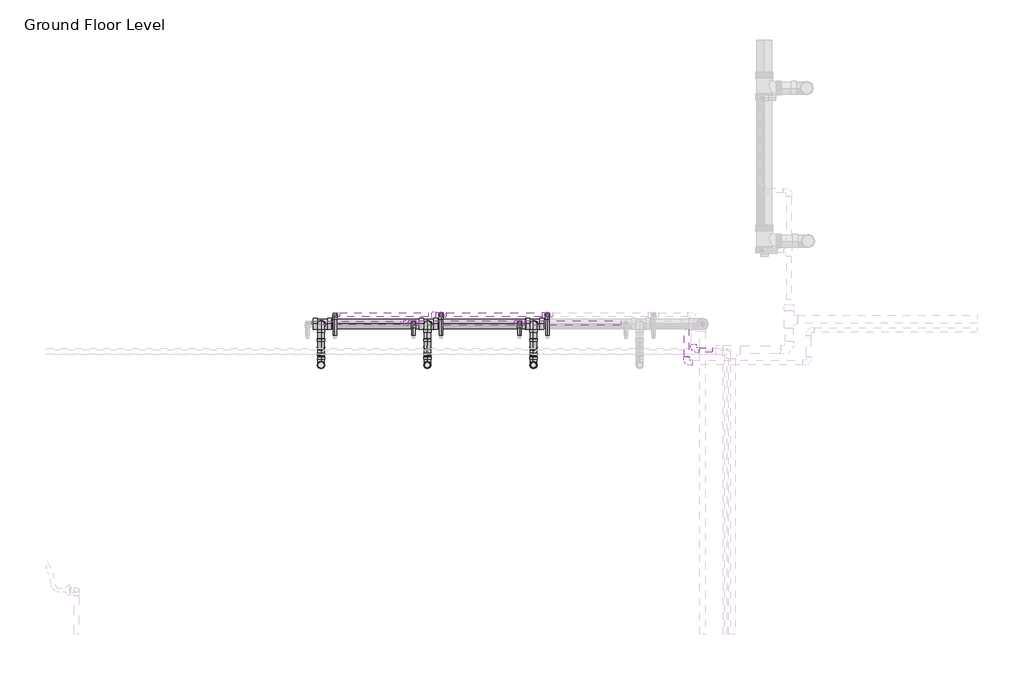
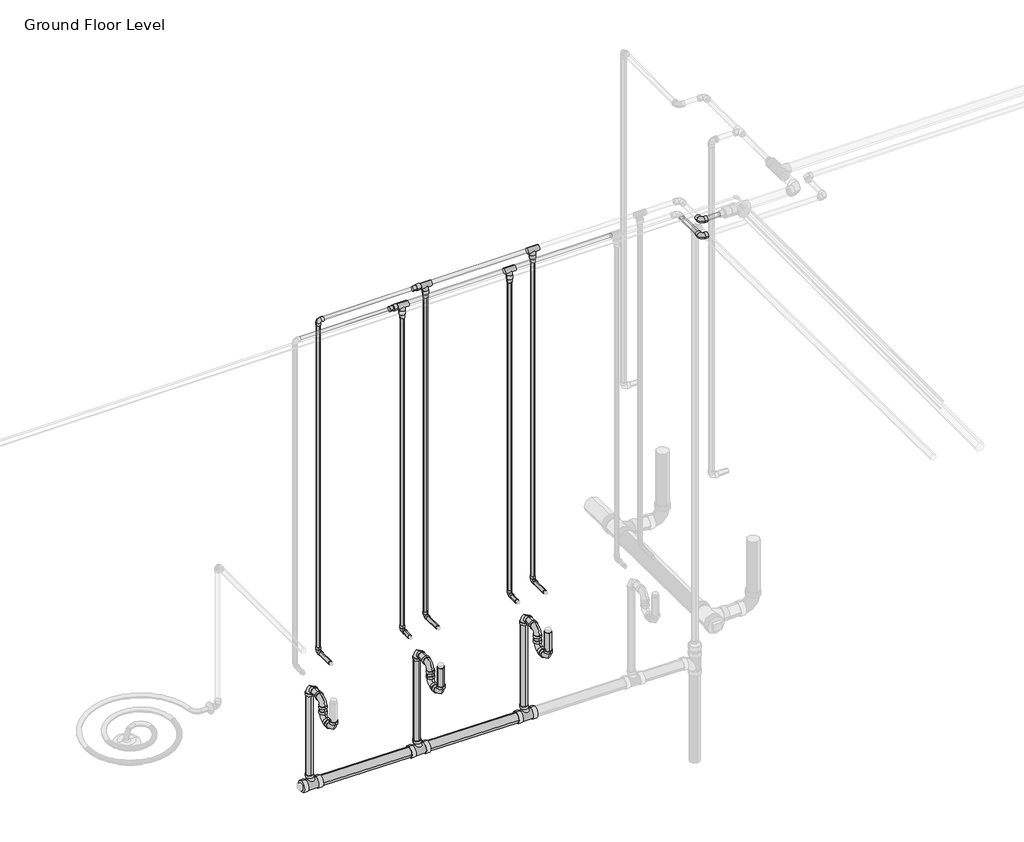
# One storey, part 7 of 74: 33 pipe fittings, 33 pipe segments.
"""IFC4 building model written with IfcOpenShell, lengths in millimetres."""

from ifc_helpers import new_model, si_unit, point, frame, frame_2d, origin, place, context, project, spatial, circle_curve, trimmed, segment, composite_curve, outline, extrude, transform, mapped, element, save
from components import m_bend_pvc_sch_40_dwv_standard_1e7bdcc1, m_bend_pvc_sch_40_dwv_standard_776e50c4, m_bend_pvc_sch_40_dwv_standard_213ff28c, m_tee_reducing_sanitary_pvc_sch_40_dwv_standard_21d2848c, standard_b266ab3f, standard_517a5a8d, standard_72b35c3b, standard_e954f56a

model = new_model("IFC4")

# Units and contexts
model_context = context("Model", 3, world=origin())
ifc_project = project(units=[si_unit("LENGTHUNIT", "METRE", prefix="MILLI")], contexts=[model_context])

# Site, building, storey
site = spatial("IfcSite", under=ifc_project)
building = spatial("IfcBuilding", under=site)
storey = spatial("IfcBuildingStorey", under=building, Name="Ground Floor Level", Elevation=900.0)

# Pipe fittings
placement = place(None, origin())
m_bend_pvc_sch_40_dwv_standard_shape = m_bend_pvc_sch_40_dwv_standard_1e7bdcc1(model_context)
element("IfcPipeFitting", 1, ObjectType="M_Bend - PVC - Sch 40 - DWV : Standard", at=placement, inside=storey, context=model_context, shape_type="MappedRepresentation", body=[
    mapped(m_bend_pvc_sch_40_dwv_standard_shape, transform((-3973.215321, -33168.3528578, 1345.0), x_axis=(0.0, 0.0, -1.0), y_axis=(0.0, 1.0, 0.0), z_axis=(1.0, 0.0, 0.0))),
])
element("IfcPipeFitting", 2, ObjectType="M_Bend - PVC - Sch 40 - DWV : Standard", at=placement, inside=storey, context=model_context, shape_type="MappedRepresentation", body=[
    mapped(m_bend_pvc_sch_40_dwv_standard_shape, transform((-3173.215321, -32858.7119065, 1488.3035905), x_axis=(0.0, 0.9999500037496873, -0.009999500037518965), y_axis=(0.0, -0.009999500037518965, -0.9999500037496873), z_axis=(-1.0, 0.0, 0.0))),
])
element("IfcPipeFitting", 3, ObjectType="M_Bend - PVC - Sch 40 - DWV : Standard", at=placement, inside=storey, context=model_context, shape_type="MappedRepresentation", body=[
    mapped(m_bend_pvc_sch_40_dwv_standard_shape, transform((-3173.215321, -33168.3528578, 1345.0), x_axis=(0.0, -0.9999500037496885, 0.009999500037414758), y_axis=(0.0, 0.009999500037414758, 0.9999500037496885), z_axis=(-1.0, 0.0, 0.0))),
])
element("IfcPipeFitting", 4, ObjectType="M_Bend - PVC - Sch 40 - DWV : Standard", at=placement, inside=storey, context=model_context, shape_type="MappedRepresentation", body=[
    mapped(m_bend_pvc_sch_40_dwv_standard_shape, transform((-2373.215321, -33168.3528578, 1344.95), x_axis=(0.0, -0.9999500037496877, 0.009999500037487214), y_axis=(0.0, 0.009999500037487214, 0.9999500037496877), z_axis=(-1.0, 0.0, 0.0))),
])
m_bend_pvc_sch_40_dwv_standard_2_shape = m_bend_pvc_sch_40_dwv_standard_776e50c4(model_context)
element("IfcPipeFitting", 5, ObjectType="M_Bend - PVC - Sch 40 - DWV : Standard", at=placement, inside=storey, context=model_context, shape_type="MappedRepresentation", body=[
    mapped(m_bend_pvc_sch_40_dwv_standard_2_shape, transform((-3973.215321, -33033.3528578, 1343.6), x_axis=(0.0, 0.9999500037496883, -0.009999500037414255), y_axis=(0.0, 0.009999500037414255, 0.9999500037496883), z_axis=(1.0, 0.0, 0.0))),
])
element("IfcPipeFitting", 6, ObjectType="M_Bend - PVC - Sch 40 - DWV : Standard", at=placement, inside=storey, context=model_context, shape_type="MappedRepresentation", body=[
    mapped(m_bend_pvc_sch_40_dwv_standard_2_shape, transform((-3973.215321, -33033.3528578, 1490.0), x_axis=(0.0, 0.0, 1.0), y_axis=(0.0, 1.0, 0.0), z_axis=(-1.0, 0.0, 0.0))),
])
element("IfcPipeFitting", 7, ObjectType="M_Bend - PVC - Sch 40 - DWV : Standard", at=placement, inside=storey, context=model_context, shape_type="MappedRepresentation", body=[
    mapped(m_bend_pvc_sch_40_dwv_standard_2_shape, transform((-3173.215321, -33033.3528578, 1343.6), x_axis=(0.0, 0.9999500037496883, -0.009999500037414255), y_axis=(0.0, 0.009999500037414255, 0.9999500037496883), z_axis=(1.0, 0.0, 0.0))),
])
element("IfcPipeFitting", 8, ObjectType="M_Bend - PVC - Sch 40 - DWV : Standard", at=placement, inside=storey, context=model_context, shape_type="MappedRepresentation", body=[
    mapped(m_bend_pvc_sch_40_dwv_standard_2_shape, transform((-3173.215321, -33033.3528578, 1490.0), x_axis=(0.0, 0.0, 1.0), y_axis=(0.0, 1.0, 0.0), z_axis=(-1.0, 0.0, 0.0))),
])
element("IfcPipeFitting", 9, ObjectType="M_Bend - PVC - Sch 40 - DWV : Standard", at=placement, inside=storey, context=model_context, shape_type="MappedRepresentation", body=[
    mapped(m_bend_pvc_sch_40_dwv_standard_2_shape, transform((-2373.215321, -33033.3528578, 1343.6), x_axis=(0.0, 0.9999500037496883, -0.009999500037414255), y_axis=(0.0, 0.009999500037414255, 0.9999500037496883), z_axis=(1.0, 0.0, 0.0))),
])
element("IfcPipeFitting", 10, ObjectType="M_Bend - PVC - Sch 40 - DWV : Standard", at=placement, inside=storey, context=model_context, shape_type="MappedRepresentation", body=[
    mapped(m_bend_pvc_sch_40_dwv_standard_2_shape, transform((-2373.215321, -33033.3528578, 1490.0), x_axis=(0.0, 0.0, 1.0), y_axis=(0.0, 1.0, 0.0), z_axis=(-1.0, 0.0, 0.0))),
])
m_bend_pvc_sch_40_dwv_standard_3_shape = m_bend_pvc_sch_40_dwv_standard_213ff28c(model_context)
element("IfcPipeFitting", 11, ObjectType="M_Bend - PVC - Sch 40 - DWV : Standard", at=placement, inside=storey, context=model_context, shape_type="MappedRepresentation", body=[
    mapped(m_bend_pvc_sch_40_dwv_standard_3_shape, transform((-3973.215321, -32858.7119065, 1488.3035905), x_axis=(0.0, 0.9999543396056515, -0.009556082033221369), y_axis=(0.0, -0.009556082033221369, -0.9999543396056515), z_axis=(-1.0, 0.0, 0.0))),
])
element("IfcPipeFitting", 12, ObjectType="M_Bend - PVC - Sch 40 - DWV : Standard", at=placement, inside=storey, context=model_context, shape_type="MappedRepresentation", body=[
    mapped(m_bend_pvc_sch_40_dwv_standard_3_shape, transform((-2373.215321, -32858.7119065, 1488.3035905), x_axis=(0.0, 0.9999543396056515, -0.009556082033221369), y_axis=(0.0, -0.009556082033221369, -0.9999543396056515), z_axis=(-1.0, 0.0, 0.0))),
])
m_tee_reducing_sanitary_pvc_sch_40_dwv_standard_shape = m_tee_reducing_sanitary_pvc_sch_40_dwv_standard_21d2848c(model_context)
element("IfcPipeFitting", 13, ObjectType="M_Tee Reducing Sanitary - PVC - Sch 40 - DWV : Standard", at=placement, inside=storey, context=model_context, shape_type="MappedRepresentation", body=[
    mapped(m_tee_reducing_sanitary_pvc_sch_40_dwv_standard_shape, transform((-3973.215321, -32858.7119065, 718.4349821), x_axis=(-0.9999500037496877, 0.0, 0.009999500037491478), y_axis=(-0.009999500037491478, 0.0, -0.9999500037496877), z_axis=(0.0, -1.0, 0.0))),
])
element("IfcPipeFitting", 14, ObjectType="M_Tee Reducing Sanitary - PVC - Sch 40 - DWV : Standard", at=placement, inside=storey, context=model_context, shape_type="MappedRepresentation", body=[
    mapped(m_tee_reducing_sanitary_pvc_sch_40_dwv_standard_shape, transform((-3173.215321, -32858.7119065, 710.4349821), x_axis=(-0.9999500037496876, 0.0, 0.009999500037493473), y_axis=(-0.009999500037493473, 0.0, -0.9999500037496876), z_axis=(0.0, -1.0, 0.0))),
])
element("IfcPipeFitting", 15, ObjectType="M_Tee Reducing Sanitary - PVC - Sch 40 - DWV : Standard", at=placement, inside=storey, context=model_context, shape_type="MappedRepresentation", body=[
    mapped(m_tee_reducing_sanitary_pvc_sch_40_dwv_standard_shape, transform((-2373.215321, -32858.7119065, 702.4349821), x_axis=(-0.9999500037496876, 0.0, 0.009999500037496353), y_axis=(-0.009999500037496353, 0.0, -0.9999500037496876), z_axis=(0.0, -1.0, 0.0))),
])
standard_shape = standard_b266ab3f(model_context)
element("IfcPipeFitting", 16, ObjectType="M_Elbow - CPVC - Sch 40 : Standard", at=placement, inside=storey, context=model_context, shape_type="MappedRepresentation", body=[
    mapped(standard_shape, transform((-2268.9004005, -32789.6855451, 1690.0), x_axis=(0.0, 0.0, -1.0), y_axis=(0.0, -1.0, 0.0), z_axis=(-1.0, 0.0, 0.0))),
])
element("IfcPipeFitting", 17, ObjectType="M_Elbow - CPVC - Sch 40 : Standard", at=placement, inside=storey, context=model_context, shape_type="MappedRepresentation", body=[
    mapped(standard_shape, transform((-3068.9004005, -32789.6855451, 1690.0), x_axis=(0.0, 0.0, -1.0), y_axis=(0.0, -1.0, 0.0), z_axis=(-1.0, 0.0, 0.0))),
])
element("IfcPipeFitting", 18, ObjectType="M_Elbow - CPVC - Sch 40 : Standard", at=placement, inside=storey, context=model_context, shape_type="MappedRepresentation", body=[
    mapped(standard_shape, transform((-3868.9004005, -32789.6855451, 1690.0), x_axis=(0.0, 0.0, -1.0), y_axis=(0.0, -1.0, 0.0), z_axis=(-1.0, 0.0, 0.0))),
])
element("IfcPipeFitting", 19, ObjectType="M_Elbow - CPVC - Sch 40 : Standard", at=placement, inside=storey, context=model_context, shape_type="MappedRepresentation", body=[
    mapped(standard_shape, transform((-3868.9004005, -32789.6855451, 4300.0), x_axis=(-1.0, 0.0, 0.0), y_axis=(0.0, 0.0, -1.0), z_axis=(0.0, -1.0, 0.0))),
])
element("IfcPipeFitting", 20, ObjectType="M_Elbow - CPVC - Sch 40 : Standard", at=placement, inside=storey, context=model_context, shape_type="MappedRepresentation", body=[
    mapped(standard_shape, transform((-2477.5302417, -32850.870708, 1690.0), x_axis=(0.0, 0.0, -1.0), y_axis=(0.0, -1.0, 0.0), z_axis=(-1.0, 0.0, 0.0))),
])
element("IfcPipeFitting", 21, ObjectType="M_Elbow - CPVC - Sch 40 : Standard", at=placement, inside=storey, context=model_context, shape_type="MappedRepresentation", body=[
    mapped(standard_shape, transform((-3277.5302417, -32850.870708, 1690.0), x_axis=(0.0, 0.0, -1.0), y_axis=(0.0, -1.0, 0.0), z_axis=(-1.0, 0.0, 0.0))),
])
standard_2_shape = standard_517a5a8d(model_context)
element("IfcPipeFitting", 22, ObjectType="M_Elbow - CPVC - Sch 40 : Standard", at=placement, inside=storey, context=model_context, shape_type="MappedRepresentation", body=[
    mapped(standard_2_shape, transform((-1167.2327605, -33054.6855451, 4300.0), x_axis=(0.0, -1.0, 0.0), y_axis=(1.0, 0.0, 0.0), z_axis=(0.0, 0.0, 1.0))),
])
element("IfcPipeFitting", 23, ObjectType="M_Elbow - CPVC - Sch 40 : Standard", at=placement, inside=storey, context=model_context, shape_type="MappedRepresentation", body=[
    mapped(standard_2_shape, transform((-1219.9877664, -33150.870708, 4250.0), x_axis=(0.0, -1.0, 0.0), y_axis=(1.0, 0.0, 0.0), z_axis=(0.0, 0.0, 1.0))),
])
standard_3_shape = standard_72b35c3b(model_context)
element("IfcPipeFitting", 24, ObjectType="M_Tee - CPVC - Sch 40 : Standard", at=placement, inside=storey, context=model_context, shape_type="MappedRepresentation", body=[
    mapped(standard_3_shape, transform((-2268.9004005, -32789.6855451, 4300.0), x_axis=(1.0, 0.0, 0.0), y_axis=(0.0, 0.0, 1.0), z_axis=(0.0, -1.0, 0.0))),
])
element("IfcPipeFitting", 25, ObjectType="M_Tee - CPVC - Sch 40 : Standard", at=placement, inside=storey, context=model_context, shape_type="MappedRepresentation", body=[
    mapped(standard_3_shape, transform((-3068.9004005, -32789.6855451, 4300.0), x_axis=(1.0, 0.0, 0.0), y_axis=(0.0, 0.0, 1.0), z_axis=(0.0, -1.0, 0.0))),
])
element("IfcPipeFitting", 26, ObjectType="M_Tee - CPVC - Sch 40 : Standard", at=placement, inside=storey, context=model_context, shape_type="MappedRepresentation", body=[
    mapped(standard_3_shape, transform((-2477.5302417, -32850.870708, 4250.0), x_axis=(1.0, 0.0, 0.0), y_axis=(0.0, 0.0, 1.0), z_axis=(0.0, -1.0, 0.0))),
])
element("IfcPipeFitting", 27, ObjectType="M_Tee - CPVC - Sch 40 : Standard", at=placement, inside=storey, context=model_context, shape_type="MappedRepresentation", body=[
    mapped(standard_3_shape, transform((-3277.5302417, -32850.870708, 4250.0), x_axis=(1.0, 0.0, 0.0), y_axis=(0.0, 0.0, 1.0), z_axis=(0.0, -1.0, 0.0))),
])
standard_4_shape = standard_e954f56a(model_context)
element("IfcPipeFitting", 28, ObjectType="M_Coupling Reducing - CPVC - Sch 40 : Standard", at=placement, inside=storey, context=model_context, shape_type="MappedRepresentation", body=[
    mapped(standard_4_shape, transform((-2268.9004005, -32789.6855451, 4260.2998), x_axis=(0.0, 0.0, -1.0), y_axis=(1.0, 0.0, 0.0), z_axis=(0.0, -1.0, 0.0))),
])
element("IfcPipeFitting", 29, ObjectType="M_Coupling Reducing - CPVC - Sch 40 : Standard", at=placement, inside=storey, context=model_context, shape_type="MappedRepresentation", body=[
    mapped(standard_4_shape, transform((-3068.9004005, -32789.6855451, 4260.2998), x_axis=(0.0, 0.0, -1.0), y_axis=(1.0, 0.0, 0.0), z_axis=(0.0, -1.0, 0.0))),
])
element("IfcPipeFitting", 30, ObjectType="M_Coupling Reducing - CPVC - Sch 40 : Standard", at=placement, inside=storey, context=model_context, shape_type="MappedRepresentation", body=[
    mapped(standard_4_shape, transform((-3108.6006005, -32789.6855451, 4300.0), x_axis=(-1.0, 0.0, 0.0), y_axis=(0.0, -1.0, 0.0), z_axis=(0.0, 0.0, 1.0))),
])
element("IfcPipeFitting", 31, ObjectType="M_Coupling Reducing - CPVC - Sch 40 : Standard", at=placement, inside=storey, context=model_context, shape_type="MappedRepresentation", body=[
    mapped(standard_4_shape, transform((-2477.5302417, -32850.870708, 4210.2998), x_axis=(0.0, 0.0, -1.0), y_axis=(1.0, 0.0, 0.0), z_axis=(0.0, -1.0, 0.0))),
])
element("IfcPipeFitting", 32, ObjectType="M_Coupling Reducing - CPVC - Sch 40 : Standard", at=placement, inside=storey, context=model_context, shape_type="MappedRepresentation", body=[
    mapped(standard_4_shape, transform((-3277.5302417, -32850.870708, 4210.2998), x_axis=(0.0, 0.0, -1.0), y_axis=(1.0, 0.0, 0.0), z_axis=(0.0, -1.0, 0.0))),
])
element("IfcPipeFitting", 33, ObjectType="M_Coupling Reducing - CPVC - Sch 40 : Standard", at=placement, inside=storey, context=model_context, shape_type="MappedRepresentation", body=[
    mapped(standard_4_shape, transform((-3317.2304417, -32850.870708, 4250.0), x_axis=(-1.0, 0.0, 0.0), y_axis=(0.0, -1.0, 0.0), z_axis=(0.0, 0.0, 1.0))),
])

# Pipe segments
element("IfcPipeSegment", 34, ObjectType="CPVC", at=placement, inside=storey, context=model_context, shape_type="SweptSolid", body=[
    extrude(outline(composite_curve([segment(trimmed(circle_curve(frame_2d((-33054.6855451, 4300.0)), 16.7005), [point((-33037.9850451, 4300.0))], [point((-33054.6855451, 4283.2995))], False, "CARTESIAN"), True, "CONTINUOUS"), segment(trimmed(circle_curve(frame_2d((-33054.6855451, 4300.0)), 16.7005), [point((-33054.6855451, 4283.2995))], [point((-33071.3860451, 4300.0))], False, "CARTESIAN"), True, "CONTINUOUS"), segment(trimmed(circle_curve(frame_2d((-33054.6855451, 4300.0)), 16.7005), [point((-33071.3860451, 4300.0))], [point((-33054.6855451, 4316.7005))], False, "CARTESIAN"), True, "CONTINUOUS"), segment(trimmed(circle_curve(frame_2d((-33054.6855451, 4300.0)), 16.7005), [point((-33054.6855451, 4316.7005))], [point((-33037.9850451, 4300.0))], False, "CARTESIAN"), True, "CONTINUOUS")], self_intersect=False)), frame((-1123.9702105, 0.0, 0.0), z_axis=(1.0, 0.0, 0.0), x_axis=(0.0, 1.0, 0.0)), (0.0, 0.0, 1.0), 95.975736),
])
element("IfcPipeSegment", 35, ObjectType="CPVC", at=placement, inside=storey, context=model_context, shape_type="SweptSolid", body=[
    extrude(outline(composite_curve([segment(trimmed(circle_curve(frame_2d((1690.0, -2268.9004005)), 13.335), [point((1690.0, -2282.2354005))], [point((1676.665, -2268.9004005))], False, "CARTESIAN"), True, "CONTINUOUS"), segment(trimmed(circle_curve(frame_2d((1690.0, -2268.9004005)), 13.335), [point((1676.665, -2268.9004005))], [point((1690.0, -2255.5654005))], False, "CARTESIAN"), True, "CONTINUOUS"), segment(trimmed(circle_curve(frame_2d((1690.0, -2268.9004005)), 13.335), [point((1690.0, -2255.5654005))], [point((1703.335, -2268.9004005))], False, "CARTESIAN"), True, "CONTINUOUS"), segment(trimmed(circle_curve(frame_2d((1690.0, -2268.9004005)), 13.335), [point((1703.335, -2268.9004005))], [point((1690.0, -2282.2354005))], False, "CARTESIAN"), True, "CONTINUOUS")], self_intersect=False)), frame((0.0, -32944.7846466, 0.0), z_axis=(0.0, 1.0, 0.0), x_axis=(0.0, 0.0, 1.0)), (0.0, 0.0, 1.0), 119.7740515),
])
element("IfcPipeSegment", 36, ObjectType="CPVC", at=placement, inside=storey, context=model_context, shape_type="SweptSolid", body=[
    extrude(outline(composite_curve([segment(trimmed(circle_curve(frame_2d((-2268.9004005, -32789.6855451)), 13.335), [point((-2255.5654005, -32789.6855451))], [point((-2268.9004005, -32803.0205451))], False, "CARTESIAN"), True, "CONTINUOUS"), segment(trimmed(circle_curve(frame_2d((-2268.9004005, -32789.6855451)), 13.335), [point((-2268.9004005, -32803.0205451))], [point((-2282.2354005, -32789.6855451))], False, "CARTESIAN"), True, "CONTINUOUS"), segment(trimmed(circle_curve(frame_2d((-2268.9004005, -32789.6855451)), 13.335), [point((-2282.2354005, -32789.6855451))], [point((-2268.9004005, -32776.3505451))], False, "CARTESIAN"), True, "CONTINUOUS"), segment(trimmed(circle_curve(frame_2d((-2268.9004005, -32789.6855451)), 13.335), [point((-2268.9004005, -32776.3505451))], [point((-2255.5654005, -32789.6855451))], False, "CARTESIAN"), True, "CONTINUOUS")], self_intersect=False)), frame((0.0, 0.0, 1725.32505), z_axis=(0.0, 0.0, 1.0), x_axis=(1.0, 0.0, 0.0)), (0.0, 0.0, 1.0), 2477.82475),
])
element("IfcPipeSegment", 37, ObjectType="CPVC", at=placement, inside=storey, context=model_context, shape_type="SweptSolid", body=[
    extrude(outline(composite_curve([segment(trimmed(circle_curve(frame_2d((1690.0, -3068.9004005)), 13.335), [point((1690.0, -3082.2354005))], [point((1676.665, -3068.9004005))], False, "CARTESIAN"), True, "CONTINUOUS"), segment(trimmed(circle_curve(frame_2d((1690.0, -3068.9004005)), 13.335), [point((1676.665, -3068.9004005))], [point((1690.0, -3055.5654005))], False, "CARTESIAN"), True, "CONTINUOUS"), segment(trimmed(circle_curve(frame_2d((1690.0, -3068.9004005)), 13.335), [point((1690.0, -3055.5654005))], [point((1703.335, -3068.9004005))], False, "CARTESIAN"), True, "CONTINUOUS"), segment(trimmed(circle_curve(frame_2d((1690.0, -3068.9004005)), 13.335), [point((1703.335, -3068.9004005))], [point((1690.0, -3082.2354005))], False, "CARTESIAN"), True, "CONTINUOUS")], self_intersect=False)), frame((0.0, -32944.7846466, 0.0), z_axis=(0.0, 1.0, 0.0), x_axis=(0.0, 0.0, 1.0)), (0.0, 0.0, 1.0), 119.7740515),
])
element("IfcPipeSegment", 38, ObjectType="CPVC", at=placement, inside=storey, context=model_context, shape_type="SweptSolid", body=[
    extrude(outline(composite_curve([segment(trimmed(circle_curve(frame_2d((-3068.9004005, -32789.6855451)), 13.335), [point((-3055.5654005, -32789.6855451))], [point((-3068.9004005, -32803.0205451))], False, "CARTESIAN"), True, "CONTINUOUS"), segment(trimmed(circle_curve(frame_2d((-3068.9004005, -32789.6855451)), 13.335), [point((-3068.9004005, -32803.0205451))], [point((-3082.2354005, -32789.6855451))], False, "CARTESIAN"), True, "CONTINUOUS"), segment(trimmed(circle_curve(frame_2d((-3068.9004005, -32789.6855451)), 13.335), [point((-3082.2354005, -32789.6855451))], [point((-3068.9004005, -32776.3505451))], False, "CARTESIAN"), True, "CONTINUOUS"), segment(trimmed(circle_curve(frame_2d((-3068.9004005, -32789.6855451)), 13.335), [point((-3068.9004005, -32776.3505451))], [point((-3055.5654005, -32789.6855451))], False, "CARTESIAN"), True, "CONTINUOUS")], self_intersect=False)), frame((0.0, 0.0, 1725.32505), z_axis=(0.0, 0.0, 1.0), x_axis=(1.0, 0.0, 0.0)), (0.0, 0.0, 1.0), 2477.82475),
])
element("IfcPipeSegment", 39, ObjectType="CPVC", at=placement, inside=storey, context=model_context, shape_type="SweptSolid", body=[
    extrude(outline(composite_curve([segment(trimmed(circle_curve(frame_2d((-32789.6855451, 4300.0)), 16.7005), [point((-32772.9850451, 4300.0))], [point((-32789.6855451, 4283.2995))], False, "CARTESIAN"), True, "CONTINUOUS"), segment(trimmed(circle_curve(frame_2d((-32789.6855451, 4300.0)), 16.7005), [point((-32789.6855451, 4283.2995))], [point((-32806.3860451, 4300.0))], False, "CARTESIAN"), True, "CONTINUOUS"), segment(trimmed(circle_curve(frame_2d((-32789.6855451, 4300.0)), 16.7005), [point((-32806.3860451, 4300.0))], [point((-32789.6855451, 4316.7005))], False, "CARTESIAN"), True, "CONTINUOUS"), segment(trimmed(circle_curve(frame_2d((-32789.6855451, 4300.0)), 16.7005), [point((-32789.6855451, 4316.7005))], [point((-32772.9850451, 4300.0))], False, "CARTESIAN"), True, "CONTINUOUS")], self_intersect=False)), frame((-3029.2002005, 0.0, 0.0), z_axis=(1.0, 0.0, 0.0), x_axis=(0.0, 1.0, 0.0)), (0.0, 0.0, 1.0), 720.5996),
])
element("IfcPipeSegment", 40, ObjectType="CPVC", at=placement, inside=storey, context=model_context, shape_type="SweptSolid", body=[
    extrude(outline(composite_curve([segment(trimmed(circle_curve(frame_2d((1690.0, -3868.9004005)), 13.335), [point((1690.0, -3882.2354005))], [point((1676.665, -3868.9004005))], False, "CARTESIAN"), True, "CONTINUOUS"), segment(trimmed(circle_curve(frame_2d((1690.0, -3868.9004005)), 13.335), [point((1676.665, -3868.9004005))], [point((1690.0, -3855.5654005))], False, "CARTESIAN"), True, "CONTINUOUS"), segment(trimmed(circle_curve(frame_2d((1690.0, -3868.9004005)), 13.335), [point((1690.0, -3855.5654005))], [point((1703.335, -3868.9004005))], False, "CARTESIAN"), True, "CONTINUOUS"), segment(trimmed(circle_curve(frame_2d((1690.0, -3868.9004005)), 13.335), [point((1703.335, -3868.9004005))], [point((1690.0, -3882.2354005))], False, "CARTESIAN"), True, "CONTINUOUS")], self_intersect=False)), frame((0.0, -32944.7846466, 0.0), z_axis=(0.0, 1.0, 0.0), x_axis=(0.0, 0.0, 1.0)), (0.0, 0.0, 1.0), 119.7740515),
])
element("IfcPipeSegment", 41, ObjectType="CPVC", at=placement, inside=storey, context=model_context, shape_type="SweptSolid", body=[
    extrude(outline(composite_curve([segment(trimmed(circle_curve(frame_2d((-3868.9004005, -32789.6855451)), 13.335), [point((-3855.5654005, -32789.6855451))], [point((-3868.9004005, -32803.0205451))], False, "CARTESIAN"), True, "CONTINUOUS"), segment(trimmed(circle_curve(frame_2d((-3868.9004005, -32789.6855451)), 13.335), [point((-3868.9004005, -32803.0205451))], [point((-3882.2354005, -32789.6855451))], False, "CARTESIAN"), True, "CONTINUOUS"), segment(trimmed(circle_curve(frame_2d((-3868.9004005, -32789.6855451)), 13.335), [point((-3882.2354005, -32789.6855451))], [point((-3868.9004005, -32776.3505451))], False, "CARTESIAN"), True, "CONTINUOUS"), segment(trimmed(circle_curve(frame_2d((-3868.9004005, -32789.6855451)), 13.335), [point((-3868.9004005, -32776.3505451))], [point((-3855.5654005, -32789.6855451))], False, "CARTESIAN"), True, "CONTINUOUS")], self_intersect=False)), frame((0.0, 0.0, 1725.32505), z_axis=(0.0, 0.0, 1.0), x_axis=(1.0, 0.0, 0.0)), (0.0, 0.0, 1.0), 2539.3499),
])
element("IfcPipeSegment", 42, ObjectType="CPVC", at=placement, inside=storey, context=model_context, shape_type="SweptSolid", body=[
    extrude(outline(composite_curve([segment(trimmed(circle_curve(frame_2d((-32789.6855451, 4300.0)), 13.335), [point((-32776.3505451, 4300.0))], [point((-32789.6855451, 4286.665))], False, "CARTESIAN"), True, "CONTINUOUS"), segment(trimmed(circle_curve(frame_2d((-32789.6855451, 4300.0)), 13.335), [point((-32789.6855451, 4286.665))], [point((-32803.0205451, 4300.0))], False, "CARTESIAN"), True, "CONTINUOUS"), segment(trimmed(circle_curve(frame_2d((-32789.6855451, 4300.0)), 13.335), [point((-32803.0205451, 4300.0))], [point((-32789.6855451, 4313.335))], False, "CARTESIAN"), True, "CONTINUOUS"), segment(trimmed(circle_curve(frame_2d((-32789.6855451, 4300.0)), 13.335), [point((-32789.6855451, 4313.335))], [point((-32776.3505451, 4300.0))], False, "CARTESIAN"), True, "CONTINUOUS")], self_intersect=False)), frame((-3833.5753505, 0.0, 0.0), z_axis=(1.0, 0.0, 0.0), x_axis=(0.0, 1.0, 0.0)), (0.0, 0.0, 1.0), 667.82475),
])
element("IfcPipeSegment", 43, ObjectType="CPVC", at=placement, inside=storey, context=model_context, shape_type="SweptSolid", body=[
    extrude(outline(composite_curve([segment(trimmed(circle_curve(frame_2d((4250.0, -1219.9877664)), 16.7005), [point((4250.0, -1203.2872664))], [point((4266.7005, -1219.9877664))], False, "CARTESIAN"), True, "CONTINUOUS"), segment(trimmed(circle_curve(frame_2d((4250.0, -1219.9877664)), 16.7005), [point((4266.7005, -1219.9877664))], [point((4250.0, -1236.6882664))], False, "CARTESIAN"), True, "CONTINUOUS"), segment(trimmed(circle_curve(frame_2d((4250.0, -1219.9877664)), 16.7005), [point((4250.0, -1236.6882664))], [point((4233.2995, -1219.9877664))], False, "CARTESIAN"), True, "CONTINUOUS"), segment(trimmed(circle_curve(frame_2d((4250.0, -1219.9877664)), 16.7005), [point((4233.2995, -1219.9877664))], [point((4250.0, -1203.2872664))], False, "CARTESIAN"), True, "CONTINUOUS")], self_intersect=False)), frame((0.0, -33107.608158, 0.0), z_axis=(0.0, 1.0, 0.0), x_axis=(0.0, 0.0, 1.0)), (0.0, 0.0, 1.0), 213.4749),
])
element("IfcPipeSegment", 44, ObjectType="CPVC", at=placement, inside=storey, context=model_context, shape_type="SweptSolid", body=[
    extrude(outline(composite_curve([segment(trimmed(circle_curve(frame_2d((1690.0, -2477.5302417)), 13.335), [point((1690.0, -2490.8652417))], [point((1676.665, -2477.5302417))], False, "CARTESIAN"), True, "CONTINUOUS"), segment(trimmed(circle_curve(frame_2d((1690.0, -2477.5302417)), 13.335), [point((1676.665, -2477.5302417))], [point((1690.0, -2464.1952417))], False, "CARTESIAN"), True, "CONTINUOUS"), segment(trimmed(circle_curve(frame_2d((1690.0, -2477.5302417)), 13.335), [point((1690.0, -2464.1952417))], [point((1703.335, -2477.5302417))], False, "CARTESIAN"), True, "CONTINUOUS"), segment(trimmed(circle_curve(frame_2d((1690.0, -2477.5302417)), 13.335), [point((1703.335, -2477.5302417))], [point((1690.0, -2490.8652417))], False, "CARTESIAN"), True, "CONTINUOUS")], self_intersect=False)), frame((0.0, -32944.7846466, 0.0), z_axis=(0.0, 1.0, 0.0), x_axis=(0.0, 0.0, 1.0)), (0.0, 0.0, 1.0), 58.5888886),
])
element("IfcPipeSegment", 45, ObjectType="CPVC", at=placement, inside=storey, context=model_context, shape_type="SweptSolid", body=[
    extrude(outline(composite_curve([segment(trimmed(circle_curve(frame_2d((-2477.5302417, -32850.870708)), 13.335), [point((-2464.1952417, -32850.870708))], [point((-2477.5302417, -32864.205708))], False, "CARTESIAN"), True, "CONTINUOUS"), segment(trimmed(circle_curve(frame_2d((-2477.5302417, -32850.870708)), 13.335), [point((-2477.5302417, -32864.205708))], [point((-2490.8652417, -32850.870708))], False, "CARTESIAN"), True, "CONTINUOUS"), segment(trimmed(circle_curve(frame_2d((-2477.5302417, -32850.870708)), 13.335), [point((-2490.8652417, -32850.870708))], [point((-2477.5302417, -32837.535708))], False, "CARTESIAN"), True, "CONTINUOUS"), segment(trimmed(circle_curve(frame_2d((-2477.5302417, -32850.870708)), 13.335), [point((-2477.5302417, -32837.535708))], [point((-2464.1952417, -32850.870708))], False, "CARTESIAN"), True, "CONTINUOUS")], self_intersect=False)), frame((0.0, 0.0, 1725.32505), z_axis=(0.0, 0.0, 1.0), x_axis=(1.0, 0.0, 0.0)), (0.0, 0.0, 1.0), 2427.82475),
])
element("IfcPipeSegment", 46, ObjectType="CPVC", at=placement, inside=storey, context=model_context, shape_type="SweptSolid", body=[
    extrude(outline(composite_curve([segment(trimmed(circle_curve(frame_2d((-32850.870708, 4250.0)), 16.7005), [point((-32834.170208, 4250.0))], [point((-32850.870708, 4233.2995))], False, "CARTESIAN"), True, "CONTINUOUS"), segment(trimmed(circle_curve(frame_2d((-32850.870708, 4250.0)), 16.7005), [point((-32850.870708, 4233.2995))], [point((-32867.571208, 4250.0))], False, "CARTESIAN"), True, "CONTINUOUS"), segment(trimmed(circle_curve(frame_2d((-32850.870708, 4250.0)), 16.7005), [point((-32867.571208, 4250.0))], [point((-32850.870708, 4266.7005))], False, "CARTESIAN"), True, "CONTINUOUS"), segment(trimmed(circle_curve(frame_2d((-32850.870708, 4250.0)), 16.7005), [point((-32850.870708, 4266.7005))], [point((-32834.170208, 4250.0))], False, "CARTESIAN"), True, "CONTINUOUS")], self_intersect=False)), frame((-2437.8300417, 0.0, 0.0), z_axis=(1.0, 0.0, 0.0), x_axis=(0.0, 1.0, 0.0)), (0.0, 0.0, 1.0), 720.5996),
])
element("IfcPipeSegment", 47, ObjectType="CPVC", at=placement, inside=storey, context=model_context, shape_type="SweptSolid", body=[
    extrude(outline(composite_curve([segment(trimmed(circle_curve(frame_2d((1690.0, -3277.5302417)), 13.335), [point((1690.0, -3290.8652417))], [point((1676.665, -3277.5302417))], False, "CARTESIAN"), True, "CONTINUOUS"), segment(trimmed(circle_curve(frame_2d((1690.0, -3277.5302417)), 13.335), [point((1676.665, -3277.5302417))], [point((1690.0, -3264.1952417))], False, "CARTESIAN"), True, "CONTINUOUS"), segment(trimmed(circle_curve(frame_2d((1690.0, -3277.5302417)), 13.335), [point((1690.0, -3264.1952417))], [point((1703.335, -3277.5302417))], False, "CARTESIAN"), True, "CONTINUOUS"), segment(trimmed(circle_curve(frame_2d((1690.0, -3277.5302417)), 13.335), [point((1703.335, -3277.5302417))], [point((1690.0, -3290.8652417))], False, "CARTESIAN"), True, "CONTINUOUS")], self_intersect=False)), frame((0.0, -32944.7846466, 0.0), z_axis=(0.0, 1.0, 0.0), x_axis=(0.0, 0.0, 1.0)), (0.0, 0.0, 1.0), 58.5888886),
])
element("IfcPipeSegment", 48, ObjectType="CPVC", at=placement, inside=storey, context=model_context, shape_type="SweptSolid", body=[
    extrude(outline(composite_curve([segment(trimmed(circle_curve(frame_2d((-3277.5302417, -32850.870708)), 13.335), [point((-3264.1952417, -32850.870708))], [point((-3277.5302417, -32864.205708))], False, "CARTESIAN"), True, "CONTINUOUS"), segment(trimmed(circle_curve(frame_2d((-3277.5302417, -32850.870708)), 13.335), [point((-3277.5302417, -32864.205708))], [point((-3290.8652417, -32850.870708))], False, "CARTESIAN"), True, "CONTINUOUS"), segment(trimmed(circle_curve(frame_2d((-3277.5302417, -32850.870708)), 13.335), [point((-3290.8652417, -32850.870708))], [point((-3277.5302417, -32837.535708))], False, "CARTESIAN"), True, "CONTINUOUS"), segment(trimmed(circle_curve(frame_2d((-3277.5302417, -32850.870708)), 13.335), [point((-3277.5302417, -32837.535708))], [point((-3264.1952417, -32850.870708))], False, "CARTESIAN"), True, "CONTINUOUS")], self_intersect=False)), frame((0.0, 0.0, 1725.32505), z_axis=(0.0, 0.0, 1.0), x_axis=(1.0, 0.0, 0.0)), (0.0, 0.0, 1.0), 2427.82475),
])
element("IfcPipeSegment", 49, ObjectType="CPVC", at=placement, inside=storey, context=model_context, shape_type="SweptSolid", body=[
    extrude(outline(composite_curve([segment(trimmed(circle_curve(frame_2d((-32850.870708, 4250.0)), 16.7005), [point((-32834.170208, 4250.0))], [point((-32850.870708, 4233.2995))], False, "CARTESIAN"), True, "CONTINUOUS"), segment(trimmed(circle_curve(frame_2d((-32850.870708, 4250.0)), 16.7005), [point((-32850.870708, 4233.2995))], [point((-32867.571208, 4250.0))], False, "CARTESIAN"), True, "CONTINUOUS"), segment(trimmed(circle_curve(frame_2d((-32850.870708, 4250.0)), 16.7005), [point((-32867.571208, 4250.0))], [point((-32850.870708, 4266.7005))], False, "CARTESIAN"), True, "CONTINUOUS"), segment(trimmed(circle_curve(frame_2d((-32850.870708, 4250.0)), 16.7005), [point((-32850.870708, 4266.7005))], [point((-32834.170208, 4250.0))], False, "CARTESIAN"), True, "CONTINUOUS")], self_intersect=False)), frame((-3237.8300417, 0.0, 0.0), z_axis=(1.0, 0.0, 0.0), x_axis=(0.0, 1.0, 0.0)), (0.0, 0.0, 1.0), 720.5996),
])
element("IfcPipeSegment", 50, ObjectType="CPVC", at=placement, inside=storey, context=model_context, shape_type="SweptSolid", body=[
    extrude(outline(composite_curve([segment(trimmed(circle_curve(frame_2d((-32850.870708, 4250.0)), 13.335), [point((-32837.535708, 4250.0))], [point((-32850.870708, 4236.665))], False, "CARTESIAN"), True, "CONTINUOUS"), segment(trimmed(circle_curve(frame_2d((-32850.870708, 4250.0)), 13.335), [point((-32850.870708, 4236.665))], [point((-32864.205708, 4250.0))], False, "CARTESIAN"), True, "CONTINUOUS"), segment(trimmed(circle_curve(frame_2d((-32850.870708, 4250.0)), 13.335), [point((-32864.205708, 4250.0))], [point((-32850.870708, 4263.335))], False, "CARTESIAN"), True, "CONTINUOUS"), segment(trimmed(circle_curve(frame_2d((-32850.870708, 4250.0)), 13.335), [point((-32850.870708, 4263.335))], [point((-32837.535708, 4250.0))], False, "CARTESIAN"), True, "CONTINUOUS")], self_intersect=False)), frame((-4042.2051917, 0.0, 0.0), z_axis=(1.0, 0.0, 0.0), x_axis=(0.0, 1.0, 0.0)), (0.0, 0.0, 1.0), 667.82475),
])
element("IfcPipeSegment", 51, ObjectType="PVC - DWV", at=placement, inside=storey, context=model_context, shape_type="SweptSolid", body=[
    extrude(outline(composite_curve([segment(trimmed(circle_curve(frame_2d((0.0, -24.1299999)), 24.13), [point((24.13, -24.1299999))], [point((0.0, -48.2599999))], False, "CARTESIAN"), True, "CONTINUOUS"), segment(trimmed(circle_curve(frame_2d((0.0, -24.1299999)), 24.13), [point((0.0, -48.2599999))], [point((-24.13, -24.1299999))], False, "CARTESIAN"), True, "CONTINUOUS"), segment(trimmed(circle_curve(frame_2d((0.0, -24.1299999)), 24.13), [point((-24.13, -24.1299999))], [point((0.0, 0.0))], False, "CARTESIAN"), True, "CONTINUOUS"), segment(trimmed(circle_curve(frame_2d((0.0, -24.1299999)), 24.13), [point((0.0, 0.0))], [point((24.13, -24.1299999))], False, "CARTESIAN"), True, "CONTINUOUS")], self_intersect=False)), frame((-3973.215321, -33095.0082751, 1368.3477606), z_axis=(0.0, -0.9999500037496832, 0.009999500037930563), x_axis=(1.0, 0.0, 0.0)), (0.0, 0.0, 1.0), 11.2071498),
])
element("IfcPipeSegment", 52, ObjectType="PVC - DWV", at=placement, inside=storey, context=model_context, shape_type="SweptSolid", body=[
    extrude(outline(composite_curve([segment(trimmed(circle_curve(frame_2d((-3973.215321, -33033.3528578)), 24.13), [point((-3997.345321, -33033.3528578))], [point((-3973.215321, -33009.2228578))], False, "CARTESIAN"), True, "CONTINUOUS"), segment(trimmed(circle_curve(frame_2d((-3973.215321, -33033.3528578)), 24.13), [point((-3973.215321, -33009.2228578))], [point((-3949.085321, -33033.3528578))], False, "CARTESIAN"), True, "CONTINUOUS"), segment(trimmed(circle_curve(frame_2d((-3973.215321, -33033.3528578)), 24.13), [point((-3949.085321, -33033.3528578))], [point((-3973.215321, -33057.4828578))], False, "CARTESIAN"), True, "CONTINUOUS"), segment(trimmed(circle_curve(frame_2d((-3973.215321, -33033.3528578)), 24.13), [point((-3973.215321, -33057.4828578))], [point((-3997.345321, -33033.3528578))], False, "CARTESIAN"), True, "CONTINUOUS")], self_intersect=False)), frame((0.0, 0.0, 1405.4998), z_axis=(0.0, 0.0, 1.0), x_axis=(1.0, 0.0, 0.0)), (0.0, 0.0, 1.0), 22.6004),
])
element("IfcPipeSegment", 53, ObjectType="PVC - DWV", at=placement, inside=storey, context=model_context, shape_type="SweptSolid", body=[
    extrude(outline(composite_curve([segment(trimmed(circle_curve(frame_2d((0.0, -24.13)), 24.13), [point((24.13, -24.13))], [point((0.0, -48.2600001))], False, "CARTESIAN"), True, "CONTINUOUS"), segment(trimmed(circle_curve(frame_2d((0.0, -24.13)), 24.13), [point((0.0, -48.2600001))], [point((-24.13, -24.13))], False, "CARTESIAN"), True, "CONTINUOUS"), segment(trimmed(circle_curve(frame_2d((0.0, -24.13)), 24.13), [point((-24.13, -24.13))], [point((0.0, 0.0))], False, "CARTESIAN"), True, "CONTINUOUS"), segment(trimmed(circle_curve(frame_2d((0.0, -24.13)), 24.13), [point((0.0, 0.0))], [point((24.13, -24.13))], False, "CARTESIAN"), True, "CONTINUOUS")], self_intersect=False)), frame((-3973.215321, -32920.3782919, 1513.0240083), z_axis=(0.0, -0.9999543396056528, 0.009556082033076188), x_axis=(1.0, 0.0, 0.0)), (0.0, 0.0, 1.0), 50.8495942),
])
element("IfcPipeSegment", 54, ObjectType="PVC - DWV", at=placement, inside=storey, context=model_context, shape_type="SweptSolid", body=[
    extrude(outline(composite_curve([segment(trimmed(circle_curve(frame_2d((-3973.215321, -32858.7119065)), 24.13), [point((-3997.345321, -32858.7119065))], [point((-3973.215321, -32834.5819065))], False, "CARTESIAN"), True, "CONTINUOUS"), segment(trimmed(circle_curve(frame_2d((-3973.215321, -32858.7119065)), 24.13), [point((-3973.215321, -32834.5819065))], [point((-3949.085321, -32858.7119065))], False, "CARTESIAN"), True, "CONTINUOUS"), segment(trimmed(circle_curve(frame_2d((-3973.215321, -32858.7119065)), 24.13), [point((-3949.085321, -32858.7119065))], [point((-3973.215321, -32882.8419065))], False, "CARTESIAN"), True, "CONTINUOUS"), segment(trimmed(circle_curve(frame_2d((-3973.215321, -32858.7119065)), 24.13), [point((-3973.215321, -32882.8419065))], [point((-3997.345321, -32858.7119065))], False, "CARTESIAN"), True, "CONTINUOUS")], self_intersect=False)), frame((0.0, 0.0, 799.2824384), z_axis=(0.0, 0.0, 1.0), x_axis=(1.0, 0.0, 0.0)), (0.0, 0.0, 1.0), 627.1213521),
])
element("IfcPipeSegment", 55, ObjectType="PVC - DWV", at=placement, inside=storey, context=model_context, shape_type="SweptSolid", body=[
    extrude(outline(composite_curve([segment(trimmed(circle_curve(frame_2d((-3173.215321, -33168.3528578)), 24.13), [point((-3197.345321, -33168.3528578))], [point((-3173.215321, -33144.2228578))], False, "CARTESIAN"), True, "CONTINUOUS"), segment(trimmed(circle_curve(frame_2d((-3173.215321, -33168.3528578)), 24.13), [point((-3173.215321, -33144.2228578))], [point((-3149.085321, -33168.3528578))], False, "CARTESIAN"), True, "CONTINUOUS"), segment(trimmed(circle_curve(frame_2d((-3173.215321, -33168.3528578)), 24.13), [point((-3149.085321, -33168.3528578))], [point((-3173.215321, -33192.4828578))], False, "CARTESIAN"), True, "CONTINUOUS"), segment(trimmed(circle_curve(frame_2d((-3173.215321, -33168.3528578)), 24.13), [point((-3173.215321, -33192.4828578))], [point((-3197.345321, -33168.3528578))], False, "CARTESIAN"), True, "CONTINUOUS")], self_intersect=False)), frame((0.0, 0.0, 1406.8998), z_axis=(0.0, 0.0, 1.0), x_axis=(1.0, 0.0, 0.0)), (0.0, 0.0, 1.0), 143.1002),
])
element("IfcPipeSegment", 56, ObjectType="PVC - DWV", at=placement, inside=storey, context=model_context, shape_type="SweptSolid", body=[
    extrude(outline(composite_curve([segment(trimmed(circle_curve(frame_2d((0.0, -24.1299999)), 24.13), [point((24.13, -24.1299999))], [point((0.0, -48.2599999))], False, "CARTESIAN"), True, "CONTINUOUS"), segment(trimmed(circle_curve(frame_2d((0.0, -24.1299999)), 24.13), [point((0.0, -48.2599999))], [point((-24.13, -24.1299999))], False, "CARTESIAN"), True, "CONTINUOUS"), segment(trimmed(circle_curve(frame_2d((0.0, -24.1299999)), 24.13), [point((-24.13, -24.1299999))], [point((0.0, 0.0))], False, "CARTESIAN"), True, "CONTINUOUS"), segment(trimmed(circle_curve(frame_2d((0.0, -24.1299999)), 24.13), [point((0.0, 0.0))], [point((24.13, -24.1299999))], False, "CARTESIAN"), True, "CONTINUOUS")], self_intersect=False)), frame((-3173.215321, -33095.0077751, 1368.3977556), z_axis=(0.0, -0.9999500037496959, 0.009999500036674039), x_axis=(1.0, 0.0, 0.0)), (0.0, 0.0, 1.0), 11.2076498),
])
element("IfcPipeSegment", 57, ObjectType="PVC - DWV", at=placement, inside=storey, context=model_context, shape_type="SweptSolid", body=[
    extrude(outline(composite_curve([segment(trimmed(circle_curve(frame_2d((-3173.215321, -33033.3528578)), 24.13), [point((-3197.345321, -33033.3528578))], [point((-3173.215321, -33009.2228578))], False, "CARTESIAN"), True, "CONTINUOUS"), segment(trimmed(circle_curve(frame_2d((-3173.215321, -33033.3528578)), 24.13), [point((-3173.215321, -33009.2228578))], [point((-3149.085321, -33033.3528578))], False, "CARTESIAN"), True, "CONTINUOUS"), segment(trimmed(circle_curve(frame_2d((-3173.215321, -33033.3528578)), 24.13), [point((-3149.085321, -33033.3528578))], [point((-3173.215321, -33057.4828578))], False, "CARTESIAN"), True, "CONTINUOUS"), segment(trimmed(circle_curve(frame_2d((-3173.215321, -33033.3528578)), 24.13), [point((-3173.215321, -33057.4828578))], [point((-3197.345321, -33033.3528578))], False, "CARTESIAN"), True, "CONTINUOUS")], self_intersect=False)), frame((0.0, 0.0, 1405.4998), z_axis=(0.0, 0.0, 1.0), x_axis=(1.0, 0.0, 0.0)), (0.0, 0.0, 1.0), 22.6004),
])
element("IfcPipeSegment", 58, ObjectType="PVC - DWV", at=placement, inside=storey, context=model_context, shape_type="SweptSolid", body=[
    extrude(outline(composite_curve([segment(trimmed(circle_curve(frame_2d((0.0, -24.13)), 24.13), [point((24.13, -24.13))], [point((0.0, -48.26))], False, "CARTESIAN"), True, "CONTINUOUS"), segment(trimmed(circle_curve(frame_2d((0.0, -24.13)), 24.13), [point((0.0, -48.26))], [point((-24.13, -24.13))], False, "CARTESIAN"), True, "CONTINUOUS"), segment(trimmed(circle_curve(frame_2d((0.0, -24.13)), 24.13), [point((-24.13, -24.13))], [point((0.0, 0.0))], False, "CARTESIAN"), True, "CONTINUOUS"), segment(trimmed(circle_curve(frame_2d((0.0, -24.13)), 24.13), [point((0.0, 0.0))], [point((24.13, -24.13))], False, "CARTESIAN"), True, "CONTINUOUS")], self_intersect=False)), frame((-3173.215321, -32920.3673239, 1513.0513511), z_axis=(0.0, -0.9999500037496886, 0.009999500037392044), x_axis=(1.0, 0.0, 0.0)), (0.0, 0.0, 1.0), 50.8495831),
])
element("IfcPipeSegment", 59, ObjectType="PVC - DWV", at=placement, inside=storey, context=model_context, shape_type="SweptSolid", body=[
    extrude(outline(composite_curve([segment(trimmed(circle_curve(frame_2d((-3173.215321, -32858.7119065)), 24.13), [point((-3197.345321, -32858.7119065))], [point((-3173.215321, -32834.5819065))], False, "CARTESIAN"), True, "CONTINUOUS"), segment(trimmed(circle_curve(frame_2d((-3173.215321, -32858.7119065)), 24.13), [point((-3173.215321, -32834.5819065))], [point((-3149.085321, -32858.7119065))], False, "CARTESIAN"), True, "CONTINUOUS"), segment(trimmed(circle_curve(frame_2d((-3173.215321, -32858.7119065)), 24.13), [point((-3149.085321, -32858.7119065))], [point((-3173.215321, -32882.8419065))], False, "CARTESIAN"), True, "CONTINUOUS"), segment(trimmed(circle_curve(frame_2d((-3173.215321, -32858.7119065)), 24.13), [point((-3173.215321, -32882.8419065))], [point((-3197.345321, -32858.7119065))], False, "CARTESIAN"), True, "CONTINUOUS")], self_intersect=False)), frame((0.0, 0.0, 791.2824384), z_axis=(0.0, 0.0, 1.0), x_axis=(1.0, 0.0, 0.0)), (0.0, 0.0, 1.0), 635.1213521),
])
element("IfcPipeSegment", 60, ObjectType="PVC - DWV", at=placement, inside=storey, context=model_context, shape_type="SweptSolid", body=[
    extrude(outline(composite_curve([segment(trimmed(circle_curve(frame_2d((-2373.215321, -33168.3528578)), 24.13), [point((-2397.345321, -33168.3528578))], [point((-2373.215321, -33144.2228578))], False, "CARTESIAN"), True, "CONTINUOUS"), segment(trimmed(circle_curve(frame_2d((-2373.215321, -33168.3528578)), 24.13), [point((-2373.215321, -33144.2228578))], [point((-2349.085321, -33168.3528578))], False, "CARTESIAN"), True, "CONTINUOUS"), segment(trimmed(circle_curve(frame_2d((-2373.215321, -33168.3528578)), 24.13), [point((-2349.085321, -33168.3528578))], [point((-2373.215321, -33192.4828578))], False, "CARTESIAN"), True, "CONTINUOUS"), segment(trimmed(circle_curve(frame_2d((-2373.215321, -33168.3528578)), 24.13), [point((-2373.215321, -33192.4828578))], [point((-2397.345321, -33168.3528578))], False, "CARTESIAN"), True, "CONTINUOUS")], self_intersect=False)), frame((0.0, 0.0, 1406.8498), z_axis=(0.0, 0.0, 1.0), x_axis=(1.0, 0.0, 0.0)), (0.0, 0.0, 1.0), 143.1502),
])
element("IfcPipeSegment", 61, ObjectType="PVC - DWV", at=placement, inside=storey, context=model_context, shape_type="SweptSolid", body=[
    extrude(outline(composite_curve([segment(trimmed(circle_curve(frame_2d((0.0, -24.1299999)), 24.13), [point((24.13, -24.1299999))], [point((0.0, -48.2599999))], False, "CARTESIAN"), True, "CONTINUOUS"), segment(trimmed(circle_curve(frame_2d((0.0, -24.1299999)), 24.13), [point((0.0, -48.2599999))], [point((-24.13, -24.1299999))], False, "CARTESIAN"), True, "CONTINUOUS"), segment(trimmed(circle_curve(frame_2d((0.0, -24.1299999)), 24.13), [point((-24.13, -24.1299999))], [point((0.0, 0.0))], False, "CARTESIAN"), True, "CONTINUOUS"), segment(trimmed(circle_curve(frame_2d((0.0, -24.1299999)), 24.13), [point((0.0, 0.0))], [point((24.13, -24.1299999))], False, "CARTESIAN"), True, "CONTINUOUS")], self_intersect=False)), frame((-2373.215321, -33095.0082751, 1368.3477606), z_axis=(0.0, -0.9999500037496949, 0.009999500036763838), x_axis=(1.0, 0.0, 0.0)), (0.0, 0.0, 1.0), 11.2071498),
])
element("IfcPipeSegment", 62, ObjectType="PVC - DWV", at=placement, inside=storey, context=model_context, shape_type="SweptSolid", body=[
    extrude(outline(composite_curve([segment(trimmed(circle_curve(frame_2d((-2373.215321, -33033.3528578)), 24.13), [point((-2397.345321, -33033.3528578))], [point((-2373.215321, -33009.2228578))], False, "CARTESIAN"), True, "CONTINUOUS"), segment(trimmed(circle_curve(frame_2d((-2373.215321, -33033.3528578)), 24.13), [point((-2373.215321, -33009.2228578))], [point((-2349.085321, -33033.3528578))], False, "CARTESIAN"), True, "CONTINUOUS"), segment(trimmed(circle_curve(frame_2d((-2373.215321, -33033.3528578)), 24.13), [point((-2349.085321, -33033.3528578))], [point((-2373.215321, -33057.4828578))], False, "CARTESIAN"), True, "CONTINUOUS"), segment(trimmed(circle_curve(frame_2d((-2373.215321, -33033.3528578)), 24.13), [point((-2373.215321, -33057.4828578))], [point((-2397.345321, -33033.3528578))], False, "CARTESIAN"), True, "CONTINUOUS")], self_intersect=False)), frame((0.0, 0.0, 1405.4998), z_axis=(0.0, 0.0, 1.0), x_axis=(1.0, 0.0, 0.0)), (0.0, 0.0, 1.0), 22.6004),
])
element("IfcPipeSegment", 63, ObjectType="PVC - DWV", at=placement, inside=storey, context=model_context, shape_type="SweptSolid", body=[
    extrude(outline(composite_curve([segment(trimmed(circle_curve(frame_2d((0.0, -24.13)), 24.13), [point((24.13, -24.13))], [point((0.0, -48.2600001))], False, "CARTESIAN"), True, "CONTINUOUS"), segment(trimmed(circle_curve(frame_2d((0.0, -24.13)), 24.13), [point((0.0, -48.2600001))], [point((-24.13, -24.13))], False, "CARTESIAN"), True, "CONTINUOUS"), segment(trimmed(circle_curve(frame_2d((0.0, -24.13)), 24.13), [point((-24.13, -24.13))], [point((0.0, 0.0))], False, "CARTESIAN"), True, "CONTINUOUS"), segment(trimmed(circle_curve(frame_2d((0.0, -24.13)), 24.13), [point((0.0, 0.0))], [point((24.13, -24.13))], False, "CARTESIAN"), True, "CONTINUOUS")], self_intersect=False)), frame((-2373.215321, -32920.3782919, 1513.0240083), z_axis=(0.0, -0.9999543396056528, 0.009556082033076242), x_axis=(1.0, 0.0, 0.0)), (0.0, 0.0, 1.0), 50.8495942),
])
element("IfcPipeSegment", 64, ObjectType="PVC - DWV", at=placement, inside=storey, context=model_context, shape_type="SweptSolid", body=[
    extrude(outline(composite_curve([segment(trimmed(circle_curve(frame_2d((-2373.215321, -32858.7119065)), 24.13), [point((-2397.345321, -32858.7119065))], [point((-2373.215321, -32834.5819065))], False, "CARTESIAN"), True, "CONTINUOUS"), segment(trimmed(circle_curve(frame_2d((-2373.215321, -32858.7119065)), 24.13), [point((-2373.215321, -32834.5819065))], [point((-2349.085321, -32858.7119065))], False, "CARTESIAN"), True, "CONTINUOUS"), segment(trimmed(circle_curve(frame_2d((-2373.215321, -32858.7119065)), 24.13), [point((-2349.085321, -32858.7119065))], [point((-2373.215321, -32882.8419065))], False, "CARTESIAN"), True, "CONTINUOUS"), segment(trimmed(circle_curve(frame_2d((-2373.215321, -32858.7119065)), 24.13), [point((-2373.215321, -32882.8419065))], [point((-2397.345321, -32858.7119065))], False, "CARTESIAN"), True, "CONTINUOUS")], self_intersect=False)), frame((0.0, 0.0, 783.2824384), z_axis=(0.0, 0.0, 1.0), x_axis=(1.0, 0.0, 0.0)), (0.0, 0.0, 1.0), 643.1213521),
])
element("IfcPipeSegment", 65, ObjectType="PVC - DWV", at=placement, inside=storey, context=model_context, shape_type="SweptSolid", body=[
    extrude(outline(composite_curve([segment(trimmed(circle_curve(frame_2d((0.0, -36.5125)), 36.5125), [point((0.0, -73.025))], [point((-36.5125, -36.5125))], False, "CARTESIAN"), True, "CONTINUOUS"), segment(trimmed(circle_curve(frame_2d((0.0, -36.5125)), 36.5125), [point((-36.5125, -36.5125))], [point((0.0, 0.0))], False, "CARTESIAN"), True, "CONTINUOUS"), segment(trimmed(circle_curve(frame_2d((0.0, -36.5125)), 36.5125), [point((0.0, 0.0))], [point((36.5125001, -36.5125))], False, "CARTESIAN"), True, "CONTINUOUS"), segment(trimmed(circle_curve(frame_2d((0.0, -36.5125)), 36.5125), [point((36.5125001, -36.5125))], [point((0.0, -73.025))], False, "CARTESIAN"), True, "CONTINUOUS")], self_intersect=False)), frame((-3232.6980903, -32822.1994065, 711.0298098), z_axis=(-0.9999500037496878, 0.0, 0.009999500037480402), x_axis=(0.009999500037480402, 0.0, 0.9999500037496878)), (0.0, 0.0, 1.0), 661.4911369),
])
element("IfcPipeSegment", 66, ObjectType="PVC - DWV", at=placement, inside=storey, context=model_context, shape_type="SweptSolid", body=[
    extrude(outline(composite_curve([segment(trimmed(circle_curve(frame_2d((0.0, -36.5125)), 36.5125), [point((0.0, -73.025))], [point((-36.5125, -36.5125))], False, "CARTESIAN"), True, "CONTINUOUS"), segment(trimmed(circle_curve(frame_2d((0.0, -36.5125)), 36.5125), [point((-36.5125, -36.5125))], [point((0.0, 0.0))], False, "CARTESIAN"), True, "CONTINUOUS"), segment(trimmed(circle_curve(frame_2d((0.0, -36.5125)), 36.5125), [point((0.0, 0.0))], [point((36.5125001, -36.5125))], False, "CARTESIAN"), True, "CONTINUOUS"), segment(trimmed(circle_curve(frame_2d((0.0, -36.5125)), 36.5125), [point((36.5125001, -36.5125))], [point((0.0, -73.025))], False, "CARTESIAN"), True, "CONTINUOUS")], self_intersect=False)), frame((-2432.6980903, -32822.1994065, 703.0298098), z_axis=(-0.9999500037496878, 0.0, 0.009999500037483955), x_axis=(0.009999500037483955, 0.0, 0.9999500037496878)), (0.0, 0.0, 1.0), 661.4911369),
])

save(model, "model.ifc")
